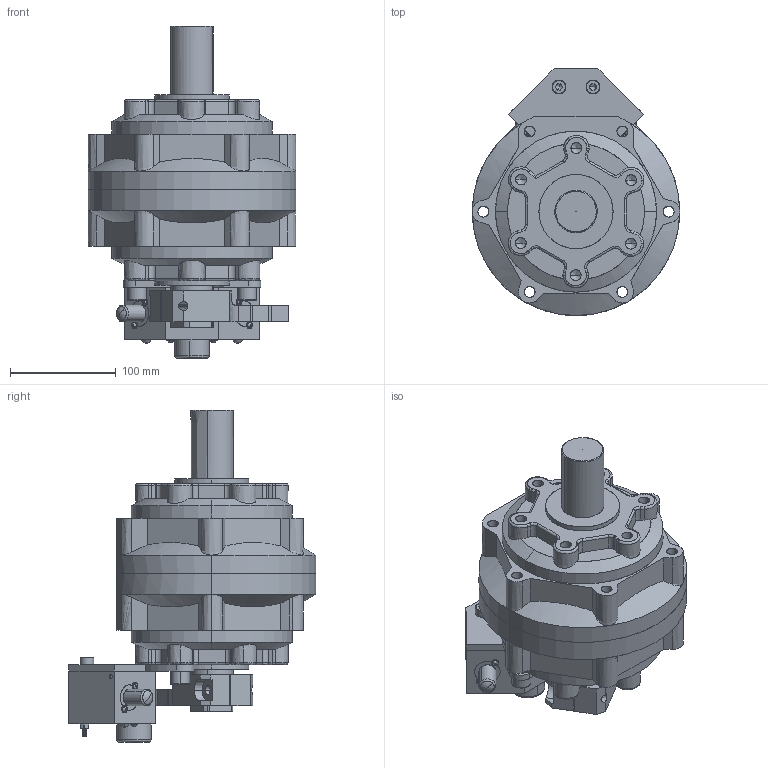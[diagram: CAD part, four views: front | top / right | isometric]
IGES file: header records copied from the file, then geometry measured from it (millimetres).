
Start section: SolidWorks IGES file using analytic representation for surfaces
Global section: file name: C:\Users\Chieh_Lu\Dropbox\¤u§@«Ç\PRN50-150-300-800\PRN800\PRN800\PRN800-#-#-#-#-CR.IGS; native system: SolidWorks 2014; preprocessor: SolidWorks 2014; author: Chieh_Lu; date: 160115.005139; units: millimetre
Bounding box: 196 x 233.5 x 313.5 mm (x, y, z)
Surface area: 392386.5 mm2 (no closed solid volume)
Topology: 0 solids, 0 shells, 993 faces, 13172 edges, 13126 vertices
Faces by surface type: bspline 520, revolution 473
